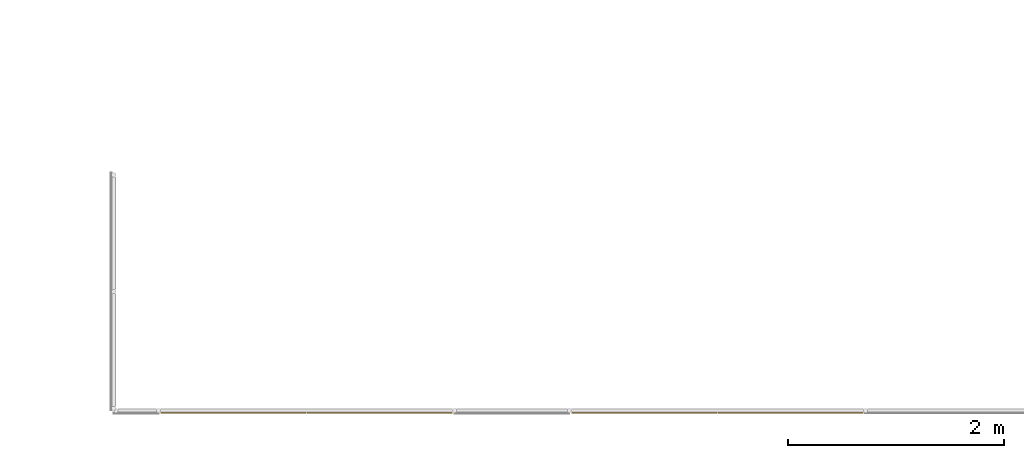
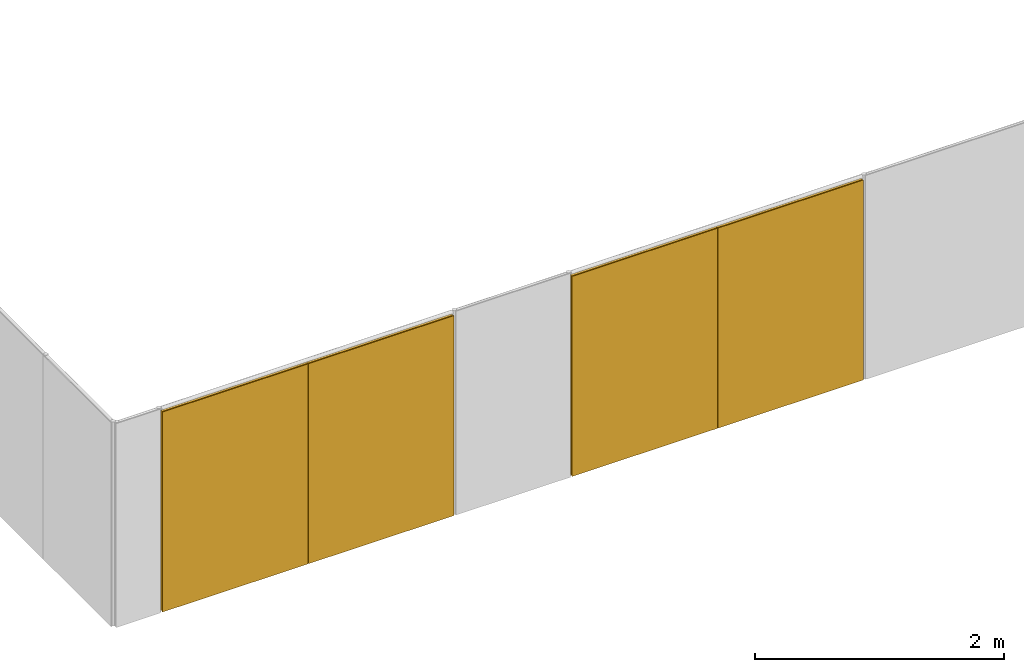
# One storey, part 47 of 87: 2 doors, 1 element without a shape of its own.
"""IFC2X3 building model written with IfcOpenShell, lengths in metres."""

from ifc_helpers import new_model, entity, si_unit, converted_unit, frame, origin, place, context, project, spatial, face_set, surface_model, source, transform, mapped, type_object, type_shapes, element, aggregate, save


model = new_model("IFC2X3")

# Units and contexts
model_context = context("Model", 3, precision=1e-09, world=origin())
plan_context = context("Plan", 3, precision=1e-09, world=origin())
ifc_project = project(units=[si_unit("LENGTHUNIT", "METRE"), si_unit("AREAUNIT", "SQUARE_METRE"), si_unit("VOLUMEUNIT", "CUBIC_METRE"), converted_unit("PLANEANGLEUNIT", "DEGREE", entity("IfcRatioMeasure", 0.01745329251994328), si_unit("PLANEANGLEUNIT", "RADIAN"), dimensions=[0, 0, 0, 0, 0, 0, 0]), si_unit("TIMEUNIT", "SECOND")], contexts=[model_context, plan_context])

# Site, building, storey
site_placement = place(None, origin())
site = spatial("IfcSite", under=ifc_project, at=site_placement, Name="Default", CompositionType="ELEMENT")
building_placement = place(site_placement, origin())
building = spatial("IfcBuilding", under=site, at=building_placement, CompositionType="ELEMENT")
storey_placement = place(building_placement, origin())
storey = spatial("IfcBuildingStorey", under=building, at=storey_placement, Name="First Floor", CompositionType="ELEMENT", Elevation=-3.531500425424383e-13)

# Curtain wall, doors
curtain_wall_placement = place(storey_placement, origin())
curtain_wall = element("IfcCurtainWall", 1, at=curtain_wall_placement, inside=storey, Name="Curtain Wall:Chain Link Fence", ObjectType="Curtain Wall:Chain Link Fence")
door_style = type_object("IfcDoorStyle", Name="M_Curtain Wall Dbl Chain Link", ConstructionType="NOTDEFINED", OperationType="NOTDEFINED", ParameterTakesPrecedence=False, Sizeable=False)
shared_shape = source(origin(), model_context, "Body", "SurfaceModel", [
    surface_model("IfcFaceBasedSurfaceModel", [(-0.001587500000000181, -0.019, 1.962), (-0.001587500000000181, -0.019, 0.0), (-1.350999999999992, -0.019, 0.0), (-1.350999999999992, -0.019, 1.962), (-0.001587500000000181, -0.0269999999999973, 1.962), (-0.001587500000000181, -0.0269999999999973, 0.0), (-1.350999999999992, -0.0269999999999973, 0.0), (-1.350999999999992, -0.0269999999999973, 1.962), (0.00158749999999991, -0.019, 1.962), (1.350999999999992, -0.019, 1.962), (1.350999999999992, -0.019, 0.0), (0.00158749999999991, -0.019, 0.0), (0.00158749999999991, -0.02700000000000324, 1.962), (1.350999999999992, -0.02700000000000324, 1.962), (1.350999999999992, -0.02700000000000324, 0.0), (0.001587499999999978, -0.02700000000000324, 0.0), (1.313647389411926, 0.004917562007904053, 0.03735259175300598), (1.315545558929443, 0.009499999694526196, 0.03545448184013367), (1.313933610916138, 0.005882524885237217, 0.845533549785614), (1.312999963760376, 0.0, 0.03799999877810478), (1.312999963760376, 0.0, 0.8445999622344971), (1.3163822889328, 0.01082068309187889, 0.8479823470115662), (1.318565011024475, 0.01343502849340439, 0.03243502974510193), (1.322499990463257, 0.01645448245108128, 0.02850000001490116), (1.319748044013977, 0.01452208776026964, 0.8513481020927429), (1.32361900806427, 0.01705167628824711, 0.8552190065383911), (1.327082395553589, 0.01835259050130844, 0.02391756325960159), (1.312999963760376, 0.0, 0.882599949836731), (1.313689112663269, 0.005070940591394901, 0.8819108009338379), (1.313647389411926, 0.004917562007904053, 1.924647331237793), (1.312999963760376, 0.0, 1.924000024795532), (1.315545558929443, 0.009499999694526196, 1.92654550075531), (1.315555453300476, 0.009517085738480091, 0.8800446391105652), (1.318212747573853, 0.01307328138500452, 0.877387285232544), (1.318565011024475, 0.01343502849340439, 1.929564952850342), (1.321350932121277, 0.01573517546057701, 0.8742491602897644), (1.322499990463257, 0.01645448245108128, 1.933500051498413), (1.324772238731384, 0.01757153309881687, 0.8708277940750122), (1.336917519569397, 0.01835259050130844, 0.01408243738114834), (1.331999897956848, 0.01899999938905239, 0.01899999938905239), (1.331999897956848, 0.01899999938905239, 0.863599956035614), (1.336917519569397, 0.01835259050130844, 1.947917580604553), (1.327754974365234, 0.01851973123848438, 0.8593550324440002), (1.350352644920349, 0.004917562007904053, 1.961352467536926), (1.350352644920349, 0.004917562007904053, 0.0006474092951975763), (1.348454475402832, 0.009499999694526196, 0.002545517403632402), (1.348454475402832, 0.009499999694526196, 1.959454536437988), (1.3454350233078, 0.01343502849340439, 0.00556497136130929), (1.3454350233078, 0.01343502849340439, 1.956435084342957), (1.341499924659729, 0.01645448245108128, 0.009499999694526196), (1.341499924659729, 0.01645448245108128, 1.952499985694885), (1.35099995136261, 0.0, 1.962000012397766), (1.35099995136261, 0.0, 0.0), (1.328351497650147, 0.01864641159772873, 0.8672484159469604), (1.327082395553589, 0.01835259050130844, 1.938082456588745), (1.331999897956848, 0.01899999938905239, 1.942999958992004), (1.350352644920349, -0.004917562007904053, 0.0006474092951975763), (1.350352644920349, -0.004917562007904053, 1.961352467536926), (1.3454350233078, -0.01343502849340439, 1.956435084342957), (1.3454350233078, -0.01343502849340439, 0.00556497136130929), (1.348454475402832, -0.009499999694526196, 0.002545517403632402), (1.348454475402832, -0.009499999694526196, 1.959454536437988), (1.341499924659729, -0.01645448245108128, 1.952499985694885), (1.341499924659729, -0.01645448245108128, 0.009499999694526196), (1.331999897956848, -0.01899999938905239, 0.863599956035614), (1.331999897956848, -0.01899999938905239, 0.01899999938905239), (1.336917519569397, -0.01835259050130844, 0.01408243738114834), (1.336917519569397, -0.01835259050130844, 1.947917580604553), (1.328351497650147, -0.01864641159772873, 0.8599514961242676), (1.327082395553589, -0.01835259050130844, 0.02391756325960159), (1.328351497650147, -0.01864641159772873, 0.8672484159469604), (1.324772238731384, -0.01757153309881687, 0.8708277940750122), (1.327082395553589, -0.01835259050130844, 1.938082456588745), (1.331999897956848, -0.01899999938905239, 1.942999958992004), (1.322499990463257, -0.01645448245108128, 1.933500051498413), (1.324772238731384, -0.01757153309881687, 0.8563722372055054), (1.322499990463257, -0.01645448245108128, 0.02850000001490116), (1.318565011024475, -0.01343502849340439, 0.03243502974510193), (1.321350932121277, -0.01573517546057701, 0.8529508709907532), (1.318212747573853, -0.01307328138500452, 0.8498127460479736), (1.315545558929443, -0.009499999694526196, 0.03545448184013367), (1.315555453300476, -0.009517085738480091, 0.8471553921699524), (1.313647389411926, -0.004917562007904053, 0.03735259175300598), (1.313689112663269, -0.005070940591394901, 0.8452891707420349), (1.321350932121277, -0.01573517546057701, 0.8742491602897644), (1.318565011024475, -0.01343502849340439, 1.929564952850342), (1.318212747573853, -0.01307328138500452, 0.877387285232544), (1.315545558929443, -0.009499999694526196, 1.92654550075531), (1.313689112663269, -0.005070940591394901, 0.8819108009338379), (1.313647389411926, -0.004917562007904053, 1.924647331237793), (1.315555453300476, -0.009517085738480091, 0.8800446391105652), (0.0262278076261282, 0.01757153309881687, 0.8708277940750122), (0.02264847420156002, 0.01864641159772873, 0.8672484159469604), (0.01899999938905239, 0.01899999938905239, 0.863599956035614), (0.03278728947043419, 0.01307328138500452, 0.877387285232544), (0.02964914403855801, 0.01573517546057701, 0.8742491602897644), (0.03731080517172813, 0.005070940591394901, 0.8819108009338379), (0.03544460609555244, 0.009517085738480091, 0.8800446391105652), (0.03799999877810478, 0.0, 0.882599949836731), (0.03278728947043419, -0.01307328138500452, 0.877387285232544), (0.03544460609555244, -0.009517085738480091, 0.8800446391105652), (0.03731080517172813, -0.005070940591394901, 0.8819108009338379), (0.02264847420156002, -0.01864641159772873, 0.8672484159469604), (0.01899999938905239, -0.01899999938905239, 0.863599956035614), (0.0262278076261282, -0.01757153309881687, 0.8708277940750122), (0.02964914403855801, -0.01573517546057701, 0.8742491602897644), (0.02264847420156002, -0.01864641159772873, 0.8599514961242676), (0.0262278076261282, -0.01757153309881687, 0.8563722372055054), (0.02964914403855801, -0.01573517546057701, 0.8529508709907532), (0.03278728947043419, -0.01307328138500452, 0.8498127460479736), (0.03544460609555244, -0.009517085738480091, 0.8471553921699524), (0.03731080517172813, -0.005070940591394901, 0.8452891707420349), (0.03799999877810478, 0.0, 0.8445999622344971), (0.03706642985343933, 0.005882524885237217, 0.845533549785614), (0.03461770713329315, 0.01082068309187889, 0.8479823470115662), (0.0232449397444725, 0.01851973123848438, 0.8593550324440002), (0.03125189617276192, 0.01452208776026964, 0.8513481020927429), (0.02738095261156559, 0.01705167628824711, 0.8552190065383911), (0.03735259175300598, 0.004917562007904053, 0.03735259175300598), (0.03545448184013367, 0.009499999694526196, 0.03545448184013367), (0.03799999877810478, 0.0, 0.03799999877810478), (0.02850000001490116, 0.01645448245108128, 0.02850000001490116), (0.02391756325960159, 0.01835259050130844, 0.02391756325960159), (0.03243502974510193, 0.01343502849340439, 0.03243502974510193), (0.01899999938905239, 0.01899999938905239, 0.01899999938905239), (0.009499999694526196, 0.01645448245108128, 0.009499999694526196), (0.01408243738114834, 0.01835259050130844, 0.01408243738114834), (0.00556497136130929, 0.01343502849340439, 0.00556497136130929), (0.0006474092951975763, 0.004917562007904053, 0.0006474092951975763), (0.002545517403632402, 0.009499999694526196, 0.002545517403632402), (0.0, 0.0, 0.0), (0.0006474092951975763, -0.004917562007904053, 0.0006474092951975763), (0.002545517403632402, -0.009499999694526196, 0.002545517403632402), (0.009499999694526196, -0.01645448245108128, 0.009499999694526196), (0.00556497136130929, -0.01343502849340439, 0.00556497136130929), (0.01408243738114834, -0.01835259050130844, 0.01408243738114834), (0.01899999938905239, -0.01899999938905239, 0.01899999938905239), (0.02391756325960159, -0.01835259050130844, 0.02391756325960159), (0.02850000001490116, -0.01645448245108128, 0.02850000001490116), (0.03545448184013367, -0.009499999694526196, 0.03545448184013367), (0.03735259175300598, -0.004917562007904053, 0.03735259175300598), (0.03243502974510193, -0.01343502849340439, 0.03243502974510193), (0.03545448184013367, 0.009499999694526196, 1.92654550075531), (0.03735259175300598, 0.004917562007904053, 1.924647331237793), (0.03799999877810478, 0.0, 1.924000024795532), (0.03243502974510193, 0.01343502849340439, 1.929564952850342), (0.02850000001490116, 0.01645448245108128, 1.933500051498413), (0.01899999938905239, 0.01899999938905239, 1.942999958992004), (0.02391756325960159, 0.01835259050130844, 1.938082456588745), (0.01408243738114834, 0.01835259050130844, 1.947917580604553), (0.0006474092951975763, 0.004917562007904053, 1.961352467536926), (0.002545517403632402, 0.009499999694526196, 1.959454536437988), (0.00556497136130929, 0.01343502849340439, 1.956435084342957), (0.009499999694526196, 0.01645448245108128, 1.952499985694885), (0.0, 0.0, 1.962000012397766), (0.0006474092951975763, -0.004917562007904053, 1.961352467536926), (0.00556497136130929, -0.01343502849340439, 1.956435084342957), (0.002545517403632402, -0.009499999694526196, 1.959454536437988), (0.009499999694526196, -0.01645448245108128, 1.952499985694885), (0.01899999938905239, -0.01899999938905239, 1.942999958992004), (0.01408243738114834, -0.01835259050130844, 1.947917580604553), (0.02391756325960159, -0.01835259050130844, 1.938082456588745), (0.02850000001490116, -0.01645448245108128, 1.933500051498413), (0.03243502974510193, -0.01343502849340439, 1.929564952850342), (0.03545448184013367, -0.009499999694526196, 1.92654550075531), (0.03735259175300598, -0.004917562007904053, 1.924647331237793), (-0.03735259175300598, 0.004917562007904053, 0.03735259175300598), (-0.03545448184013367, 0.009499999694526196, 0.03545448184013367), (-0.03706642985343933, 0.005882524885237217, 0.845533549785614), (-0.03799999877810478, 0.0, 0.03799999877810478), (-0.03799999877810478, 0.0, 0.8445999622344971), (-0.03461770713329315, 0.01082068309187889, 0.8479823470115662), (-0.03243502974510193, 0.01343502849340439, 0.03243502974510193), (-0.02850000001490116, 0.01645448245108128, 0.02850000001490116), (-0.03125189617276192, 0.01452208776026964, 0.8513481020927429), (-0.02738095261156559, 0.01705167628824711, 0.8552190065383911), (-0.02391756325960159, 0.01835259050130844, 0.02391756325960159), (-0.03799999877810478, 0.0, 0.882599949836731), (-0.03731080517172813, 0.005070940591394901, 0.8819108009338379), (-0.03735259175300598, 0.004917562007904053, 1.924647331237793), (-0.03799999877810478, 0.0, 1.924000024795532), (-0.03545448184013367, 0.009499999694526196, 1.92654550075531), (-0.03544460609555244, 0.009517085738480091, 0.8800446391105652), (-0.03278728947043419, 0.01307328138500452, 0.877387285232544), (-0.03243502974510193, 0.01343502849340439, 1.929564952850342), (-0.02964914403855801, 0.01573517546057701, 0.8742491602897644), (-0.02850000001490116, 0.01645448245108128, 1.933500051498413), (-0.0262278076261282, 0.01757153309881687, 0.8708277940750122), (-0.01408243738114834, 0.01835259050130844, 0.01408243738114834), (-0.01899999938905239, 0.01899999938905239, 0.01899999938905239), (-0.01899999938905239, 0.01899999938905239, 0.863599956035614), (-0.01408243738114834, 0.01835259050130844, 1.947917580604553), (-0.0232449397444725, 0.01851973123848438, 0.8593550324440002), (-0.0006474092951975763, 0.004917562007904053, 1.961352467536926), (-0.0006474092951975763, 0.004917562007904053, 0.0006474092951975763), (-0.002545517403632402, 0.009499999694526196, 0.002545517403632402), (-0.002545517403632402, 0.009499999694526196, 1.959454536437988), (-0.00556497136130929, 0.01343502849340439, 0.00556497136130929), (-0.00556497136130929, 0.01343502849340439, 1.956435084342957), (-0.009499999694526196, 0.01645448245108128, 0.009499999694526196), (-0.009499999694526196, 0.01645448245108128, 1.952499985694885), (0.0, 0.0, 1.962000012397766), (-0.02264847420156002, 0.01864641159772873, 0.8672484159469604), (-0.02391756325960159, 0.01835259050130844, 1.938082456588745), (-0.01899999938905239, 0.01899999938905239, 1.942999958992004), (-0.0006474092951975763, -0.004917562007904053, 0.0006474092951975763), (-0.0006474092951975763, -0.004917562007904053, 1.961352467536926), (-0.00556497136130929, -0.01343502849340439, 1.956435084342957), (-0.00556497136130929, -0.01343502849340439, 0.00556497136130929), (-0.002545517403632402, -0.009499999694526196, 0.002545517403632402), (-0.002545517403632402, -0.009499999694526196, 1.959454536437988), (-0.009499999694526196, -0.01645448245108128, 1.952499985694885), (-0.009499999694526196, -0.01645448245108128, 0.009499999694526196), (-0.01899999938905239, -0.01899999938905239, 0.863599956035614), (-0.01899999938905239, -0.01899999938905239, 0.01899999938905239), (-0.01408243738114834, -0.01835259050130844, 0.01408243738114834), (-0.01408243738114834, -0.01835259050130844, 1.947917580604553), (-0.02264847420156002, -0.01864641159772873, 0.8599514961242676), (-0.02391756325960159, -0.01835259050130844, 0.02391756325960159), (-0.02264847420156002, -0.01864641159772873, 0.8672484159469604), (-0.0262278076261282, -0.01757153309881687, 0.8708277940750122), (-0.02391756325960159, -0.01835259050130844, 1.938082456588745), (-0.01899999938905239, -0.01899999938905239, 1.942999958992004), (-0.02850000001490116, -0.01645448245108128, 1.933500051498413), (-0.0262278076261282, -0.01757153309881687, 0.8563722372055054), (-0.02850000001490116, -0.01645448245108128, 0.02850000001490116), (-0.03243502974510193, -0.01343502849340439, 0.03243502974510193), (-0.02964914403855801, -0.01573517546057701, 0.8529508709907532), (-0.03278728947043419, -0.01307328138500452, 0.8498127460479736), (-0.03545448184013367, -0.009499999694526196, 0.03545448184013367), (-0.03544460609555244, -0.009517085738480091, 0.8471553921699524), (-0.03735259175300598, -0.004917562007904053, 0.03735259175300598), (-0.03731080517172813, -0.005070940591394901, 0.8452891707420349), (-0.02964914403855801, -0.01573517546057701, 0.8742491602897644), (-0.03243502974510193, -0.01343502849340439, 1.929564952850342), (-0.03278728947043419, -0.01307328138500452, 0.877387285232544), (-0.03545448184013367, -0.009499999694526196, 1.92654550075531), (-0.03731080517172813, -0.005070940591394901, 0.8819108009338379), (-0.03735259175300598, -0.004917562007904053, 1.924647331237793), (-0.03544460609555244, -0.009517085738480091, 0.8800446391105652), (-1.324772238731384, 0.01757153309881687, 0.8708277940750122), (-1.328351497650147, 0.01864641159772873, 0.8672484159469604), (-1.331999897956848, 0.01899999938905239, 0.863599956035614), (-1.318212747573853, 0.01307328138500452, 0.877387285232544), (-1.321350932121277, 0.01573517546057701, 0.8742491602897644), (-1.313689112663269, 0.005070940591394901, 0.8819108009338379), (-1.315555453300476, 0.009517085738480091, 0.8800446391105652), (-1.312999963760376, 0.0, 0.882599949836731), (-1.318212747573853, -0.01307328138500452, 0.877387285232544), (-1.315555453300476, -0.009517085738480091, 0.8800446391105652), (-1.313689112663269, -0.005070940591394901, 0.8819108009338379), (-1.328351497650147, -0.01864641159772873, 0.8672484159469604), (-1.331999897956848, -0.01899999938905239, 0.863599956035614), (-1.324772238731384, -0.01757153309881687, 0.8708277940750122), (-1.321350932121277, -0.01573517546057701, 0.8742491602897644), (-1.328351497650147, -0.01864641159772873, 0.8599514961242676), (-1.324772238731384, -0.01757153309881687, 0.8563722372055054), (-1.321350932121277, -0.01573517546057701, 0.8529508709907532), (-1.318212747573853, -0.01307328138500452, 0.8498127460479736), (-1.315555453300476, -0.009517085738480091, 0.8471553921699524), (-1.313689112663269, -0.005070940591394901, 0.8452891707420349), (-1.312999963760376, 0.0, 0.8445999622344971), (-1.313933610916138, 0.005882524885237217, 0.845533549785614), (-1.3163822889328, 0.01082068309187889, 0.8479823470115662), (-1.327754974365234, 0.01851973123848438, 0.8593550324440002), (-1.319748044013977, 0.01452208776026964, 0.8513481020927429), (-1.32361900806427, 0.01705167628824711, 0.8552190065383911), (-1.313647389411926, 0.004917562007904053, 0.03735259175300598), (-1.315545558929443, 0.009499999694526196, 0.03545448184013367), (-1.312999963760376, 0.0, 0.03799999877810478), (-1.322499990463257, 0.01645448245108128, 0.02850000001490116), (-1.327082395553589, 0.01835259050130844, 0.02391756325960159), (-1.318565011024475, 0.01343502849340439, 0.03243502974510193), (-1.331999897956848, 0.01899999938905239, 0.01899999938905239), (-1.341499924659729, 0.01645448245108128, 0.009499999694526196), (-1.336917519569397, 0.01835259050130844, 0.01408243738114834), (-1.3454350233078, 0.01343502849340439, 0.00556497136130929), (-1.350352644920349, 0.004917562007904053, 0.0006474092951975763), (-1.348454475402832, 0.009499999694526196, 0.002545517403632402), (-1.35099995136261, 0.0, 0.0), (-1.350352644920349, -0.004917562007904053, 0.0006474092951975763), (-1.348454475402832, -0.009499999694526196, 0.002545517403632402), (-1.341499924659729, -0.01645448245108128, 0.009499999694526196), (-1.3454350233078, -0.01343502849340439, 0.00556497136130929), (-1.336917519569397, -0.01835259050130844, 0.01408243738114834), (-1.331999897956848, -0.01899999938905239, 0.01899999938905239), (-1.327082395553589, -0.01835259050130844, 0.02391756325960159), (-1.322499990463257, -0.01645448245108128, 0.02850000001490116), (-1.315545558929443, -0.009499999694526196, 0.03545448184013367), (-1.313647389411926, -0.004917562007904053, 0.03735259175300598), (-1.318565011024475, -0.01343502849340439, 0.03243502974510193), (-1.315545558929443, 0.009499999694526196, 1.92654550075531), (-1.313647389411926, 0.004917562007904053, 1.924647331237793), (-1.312999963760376, 0.0, 1.924000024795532), (-1.318565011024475, 0.01343502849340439, 1.929564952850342), (-1.322499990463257, 0.01645448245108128, 1.933500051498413), (-1.331999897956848, 0.01899999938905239, 1.942999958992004), (-1.327082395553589, 0.01835259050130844, 1.938082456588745), (-1.336917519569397, 0.01835259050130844, 1.947917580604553), (-1.350352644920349, 0.004917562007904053, 1.961352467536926), (-1.348454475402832, 0.009499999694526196, 1.959454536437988), (-1.3454350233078, 0.01343502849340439, 1.956435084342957), (-1.341499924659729, 0.01645448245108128, 1.952499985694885), (-1.35099995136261, 0.0, 1.962000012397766), (-1.350352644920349, -0.004917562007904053, 1.961352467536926), (-1.3454350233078, -0.01343502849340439, 1.956435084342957), (-1.348454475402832, -0.009499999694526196, 1.959454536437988), (-1.341499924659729, -0.01645448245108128, 1.952499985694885), (-1.331999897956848, -0.01899999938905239, 1.942999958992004), (-1.336917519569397, -0.01835259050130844, 1.947917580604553), (-1.327082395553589, -0.01835259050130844, 1.938082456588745), (-1.322499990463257, -0.01645448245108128, 1.933500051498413), (-1.318565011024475, -0.01343502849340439, 1.929564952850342), (-1.315545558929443, -0.009499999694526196, 1.92654550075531), (-1.313647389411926, -0.004917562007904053, 1.924647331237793)], [face_set([[[0, 1, 2, 3]], [[4, 5, 6, 7]], [[3, 0, 4, 7]], [[2, 3, 7, 6]], [[1, 5, 6, 2]], [[0, 4, 5, 1]]]), face_set([[[8, 9, 10, 11]], [[12, 13, 14, 15]], [[11, 15, 12, 8]], [[10, 14, 15, 11]], [[9, 10, 14, 13]], [[8, 9, 13, 12]]]), face_set([[[16, 17, 18]], [[19, 16, 20]], [[20, 16, 18]], [[17, 21, 18]], [[22, 23, 24]], [[24, 21, 22]], [[25, 24, 23]], [[25, 23, 26]], [[22, 21, 17]], [[27, 28, 29]], [[29, 30, 27]], [[29, 28, 31]], [[32, 31, 28]], [[33, 31, 32]], [[34, 33, 35]], [[33, 34, 31]], [[35, 36, 34]], [[37, 36, 35]], [[38, 39, 40, 41]], [[42, 26, 39]], [[42, 39, 40]], [[43, 44, 45, 46]], [[46, 45, 47, 48]], [[48, 47, 49, 50]], [[50, 49, 38, 41]], [[51, 52, 44, 43]], [[37, 53, 54]], [[53, 55, 54]], [[53, 40, 55]], [[40, 55, 41]], [[37, 54, 36]], [[25, 26, 42]], [[56, 52, 51, 57]], [[58, 59, 60, 61]], [[61, 60, 56, 57]], [[62, 63, 59, 58]], [[64, 65, 66, 67]], [[65, 68, 64]], [[68, 65, 69]], [[67, 66, 63, 62]], [[70, 71, 72]], [[64, 67, 73]], [[73, 70, 72]], [[71, 74, 72]], [[73, 64, 70]], [[68, 69, 75]], [[76, 77, 78]], [[79, 78, 77]], [[80, 81, 79]], [[79, 77, 80]], [[76, 78, 75]], [[80, 82, 83]], [[82, 20, 83]], [[20, 82, 19]], [[80, 83, 81]], [[84, 74, 71]], [[84, 85, 74]], [[85, 84, 86]], [[85, 86, 87]], [[88, 27, 89]], [[90, 88, 87]], [[89, 87, 88]], [[30, 89, 27]], [[90, 87, 86]], [[76, 75, 69]], [[91, 92, 53, 37]], [[92, 53, 40, 93]], [[94, 95, 35, 33]], [[96, 97, 32, 28]], [[97, 94, 33, 32]], [[95, 91, 37, 35]], [[28, 27, 98, 96]], [[99, 100, 90, 86]], [[100, 101, 88, 90]], [[64, 70, 102, 103]], [[104, 105, 84, 71]], [[102, 104, 71, 70]], [[105, 99, 86, 84]], [[27, 88, 101, 98]], [[75, 68, 106, 107]], [[68, 64, 103, 106]], [[79, 78, 108, 109]], [[83, 81, 110, 111]], [[81, 79, 109, 110]], [[78, 75, 107, 108]], [[20, 83, 111, 112]], [[21, 18, 113, 114]], [[18, 20, 112, 113]], [[40, 42, 115, 93]], [[25, 24, 116, 117]], [[42, 25, 117, 115]], [[24, 21, 114, 116]], [[16, 118, 119, 17]], [[19, 120, 118, 16]], [[23, 121, 122, 26]], [[22, 123, 121, 23]], [[17, 119, 123, 22]], [[124, 39, 26, 122]], [[49, 125, 126, 38]], [[47, 127, 125, 49]], [[44, 128, 129, 45]], [[45, 129, 127, 47]], [[52, 130, 128, 44]], [[38, 126, 124, 39]], [[131, 130, 52, 56]], [[60, 132, 131, 56]], [[63, 133, 134, 59]], [[59, 134, 132, 60]], [[66, 135, 133, 63]], [[135, 66, 65, 136]], [[69, 137, 138, 76]], [[65, 136, 137, 69]], [[80, 139, 140, 82]], [[77, 141, 139, 80]], [[76, 138, 141, 77]], [[120, 19, 82, 140]], [[142, 96, 143]], [[144, 143, 98]], [[98, 143, 96]], [[142, 97, 96]], [[145, 146, 95]], [[97, 142, 94]], [[95, 94, 145]], [[91, 95, 146]], [[94, 142, 145]], [[113, 118, 112]], [[118, 120, 112]], [[119, 118, 113]], [[114, 119, 113]], [[123, 116, 121]], [[114, 123, 119]], [[123, 114, 116]], [[121, 116, 117]], [[92, 147, 93]], [[91, 148, 92]], [[148, 91, 146]], [[92, 148, 147]], [[149, 147, 93]], [[128, 150, 151, 129]], [[129, 151, 152, 127]], [[127, 152, 153, 125]], [[125, 153, 149, 126]], [[130, 154, 150, 128]], [[122, 115, 124]], [[115, 93, 124]], [[93, 124, 126, 149]], [[122, 117, 115]], [[122, 121, 117]], [[155, 154, 130, 131]], [[134, 156, 157, 132]], [[132, 157, 155, 131]], [[133, 158, 156, 134]], [[103, 159, 160, 135]], [[159, 102, 103]], [[102, 159, 161]], [[135, 160, 158, 133]], [[106, 107, 137]], [[103, 135, 136]], [[136, 106, 137]], [[107, 138, 137]], [[136, 103, 106]], [[102, 161, 104]], [[162, 163, 105]], [[99, 105, 163]], [[164, 100, 99]], [[99, 163, 164]], [[162, 105, 104]], [[164, 165, 101]], [[165, 98, 101]], [[98, 165, 144]], [[164, 101, 100]], [[108, 138, 107]], [[108, 141, 138]], [[141, 108, 109]], [[141, 109, 139]], [[111, 112, 140]], [[110, 111, 139]], [[140, 139, 111]], [[120, 140, 112]], [[110, 139, 109]], [[162, 104, 161]], [[143, 29, 31, 142]], [[144, 30, 29, 143]], [[146, 36, 54, 148]], [[145, 34, 36, 146]], [[142, 31, 34, 145]], [[55, 147, 148, 54]], [[153, 50, 41, 149]], [[152, 48, 50, 153]], [[150, 43, 46, 151]], [[151, 46, 48, 152]], [[154, 51, 43, 150]], [[149, 41, 55, 147]], [[57, 51, 154, 155]], [[157, 61, 57, 155]], [[158, 62, 58, 156]], [[156, 58, 61, 157]], [[160, 67, 62, 158]], [[67, 160, 159, 73]], [[161, 72, 74, 162]], [[159, 73, 72, 161]], [[164, 87, 89, 165]], [[163, 85, 87, 164]], [[162, 74, 85, 163]], [[30, 144, 165, 89]]]), face_set([[[166, 167, 168]], [[169, 166, 170]], [[170, 166, 168]], [[167, 171, 168]], [[172, 173, 174]], [[174, 171, 172]], [[175, 174, 173]], [[175, 173, 176]], [[172, 171, 167]], [[177, 178, 179]], [[179, 180, 177]], [[179, 178, 181]], [[182, 181, 178]], [[183, 181, 182]], [[184, 183, 185]], [[183, 184, 181]], [[185, 186, 184]], [[187, 186, 185]], [[188, 189, 190, 191]], [[192, 176, 189]], [[192, 189, 190]], [[193, 194, 195, 196]], [[196, 195, 197, 198]], [[198, 197, 199, 200]], [[200, 199, 188, 191]], [[201, 130, 194, 193]], [[187, 202, 203]], [[202, 204, 203]], [[202, 190, 204]], [[190, 204, 191]], [[187, 203, 186]], [[175, 176, 192]], [[205, 130, 201, 206]], [[207, 208, 209, 210]], [[210, 209, 205, 206]], [[211, 212, 208, 207]], [[213, 214, 215, 216]], [[214, 217, 213]], [[217, 214, 218]], [[216, 215, 212, 211]], [[219, 220, 221]], [[213, 216, 222]], [[222, 219, 221]], [[220, 223, 221]], [[222, 213, 219]], [[217, 218, 224]], [[225, 226, 227]], [[228, 227, 226]], [[229, 230, 228]], [[228, 226, 229]], [[225, 227, 224]], [[229, 231, 232]], [[231, 170, 232]], [[170, 231, 169]], [[229, 232, 230]], [[233, 223, 220]], [[233, 234, 223]], [[234, 233, 235]], [[234, 235, 236]], [[237, 177, 238]], [[239, 237, 236]], [[238, 236, 237]], [[180, 238, 177]], [[239, 236, 235]], [[225, 224, 218]], [[240, 241, 202, 187]], [[241, 202, 190, 242]], [[243, 244, 185, 183]], [[245, 246, 182, 178]], [[246, 243, 183, 182]], [[244, 240, 187, 185]], [[178, 177, 247, 245]], [[248, 249, 239, 235]], [[249, 250, 237, 239]], [[213, 219, 251, 252]], [[253, 254, 233, 220]], [[251, 253, 220, 219]], [[254, 248, 235, 233]], [[177, 237, 250, 247]], [[224, 217, 255, 256]], [[217, 213, 252, 255]], [[228, 227, 257, 258]], [[232, 230, 259, 260]], [[230, 228, 258, 259]], [[227, 224, 256, 257]], [[170, 232, 260, 261]], [[171, 168, 262, 263]], [[168, 170, 261, 262]], [[190, 192, 264, 242]], [[175, 174, 265, 266]], [[192, 175, 266, 264]], [[174, 171, 263, 265]], [[166, 267, 268, 167]], [[169, 269, 267, 166]], [[173, 270, 271, 176]], [[172, 272, 270, 173]], [[167, 268, 272, 172]], [[273, 189, 176, 271]], [[199, 274, 275, 188]], [[197, 276, 274, 199]], [[194, 277, 278, 195]], [[195, 278, 276, 197]], [[130, 279, 277, 194]], [[188, 275, 273, 189]], [[280, 279, 130, 205]], [[209, 281, 280, 205]], [[212, 282, 283, 208]], [[208, 283, 281, 209]], [[215, 284, 282, 212]], [[284, 215, 214, 285]], [[218, 286, 287, 225]], [[214, 285, 286, 218]], [[229, 288, 289, 231]], [[226, 290, 288, 229]], [[225, 287, 290, 226]], [[269, 169, 231, 289]], [[291, 245, 292]], [[293, 292, 247]], [[247, 292, 245]], [[291, 246, 245]], [[294, 295, 244]], [[246, 291, 243]], [[244, 243, 294]], [[240, 244, 295]], [[243, 291, 294]], [[262, 267, 261]], [[267, 269, 261]], [[268, 267, 262]], [[263, 268, 262]], [[272, 265, 270]], [[263, 272, 268]], [[272, 263, 265]], [[270, 265, 266]], [[241, 296, 242]], [[240, 297, 241]], [[297, 240, 295]], [[241, 297, 296]], [[298, 296, 242]], [[277, 299, 300, 278]], [[278, 300, 301, 276]], [[276, 301, 302, 274]], [[274, 302, 298, 275]], [[279, 303, 299, 277]], [[271, 264, 273]], [[264, 242, 273]], [[242, 273, 275, 298]], [[271, 266, 264]], [[271, 270, 266]], [[304, 303, 279, 280]], [[283, 305, 306, 281]], [[281, 306, 304, 280]], [[282, 307, 305, 283]], [[252, 308, 309, 284]], [[308, 251, 252]], [[251, 308, 310]], [[284, 309, 307, 282]], [[255, 256, 286]], [[252, 284, 285]], [[285, 255, 286]], [[256, 287, 286]], [[285, 252, 255]], [[251, 310, 253]], [[311, 312, 254]], [[248, 254, 312]], [[313, 249, 248]], [[248, 312, 313]], [[311, 254, 253]], [[313, 314, 250]], [[314, 247, 250]], [[247, 314, 293]], [[313, 250, 249]], [[257, 287, 256]], [[257, 290, 287]], [[290, 257, 258]], [[290, 258, 288]], [[260, 261, 289]], [[259, 260, 288]], [[289, 288, 260]], [[269, 289, 261]], [[259, 288, 258]], [[311, 253, 310]], [[292, 179, 181, 291]], [[293, 180, 179, 292]], [[295, 186, 203, 297]], [[294, 184, 186, 295]], [[291, 181, 184, 294]], [[204, 296, 297, 203]], [[302, 200, 191, 298]], [[301, 198, 200, 302]], [[299, 193, 196, 300]], [[300, 196, 198, 301]], [[303, 201, 193, 299]], [[298, 191, 204, 296]], [[206, 201, 303, 304]], [[306, 210, 206, 304]], [[307, 211, 207, 305]], [[305, 207, 210, 306]], [[309, 216, 211, 307]], [[216, 309, 308, 222]], [[310, 221, 223, 311]], [[308, 222, 221, 310]], [[313, 236, 238, 314]], [[312, 234, 236, 313]], [[311, 223, 234, 312]], [[180, 293, 314, 238]]])]),
])
type_shapes(door_style, [shared_shape])
placement = place(building_placement, frame((0.0, 0.0, -1.0)))
door_1_placement = place(placement, frame((-36.67916183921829, -9.554161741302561, 0.0)))
door_1 = element("IfcDoor", 2, at=door_1_placement, type_object=door_style, Name="M_Curtain Wall Dbl Chain Link:M_Curtain Wall Dbl Chain Link:M_Curtain Wall Dbl Chain Link", ObjectType="M_Curtain Wall Dbl Chain Link", OverallHeight=1.963855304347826, OverallWidth=2.701999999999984, context=model_context, shape_type="MappedRepresentation", body=[
    mapped(shared_shape, transform((0.0, 0.0, 0.0), scale=1.0)),
])
door_2_placement = place(placement, frame((-32.87879311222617, -9.554161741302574, 0.0)))
door_2 = element("IfcDoor", 3, at=door_2_placement, type_object=door_style, Name="M_Curtain Wall Dbl Chain Link:M_Curtain Wall Dbl Chain Link:M_Curtain Wall Dbl Chain Link", ObjectType="M_Curtain Wall Dbl Chain Link", OverallHeight=1.963855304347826, OverallWidth=2.701999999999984, context=model_context, shape_type="MappedRepresentation", body=[
    mapped(shared_shape, transform((0.0, 0.0, 0.0), scale=1.0)),
])
aggregate(curtain_wall, [door_1, door_2])

save(model, "model.ifc")
